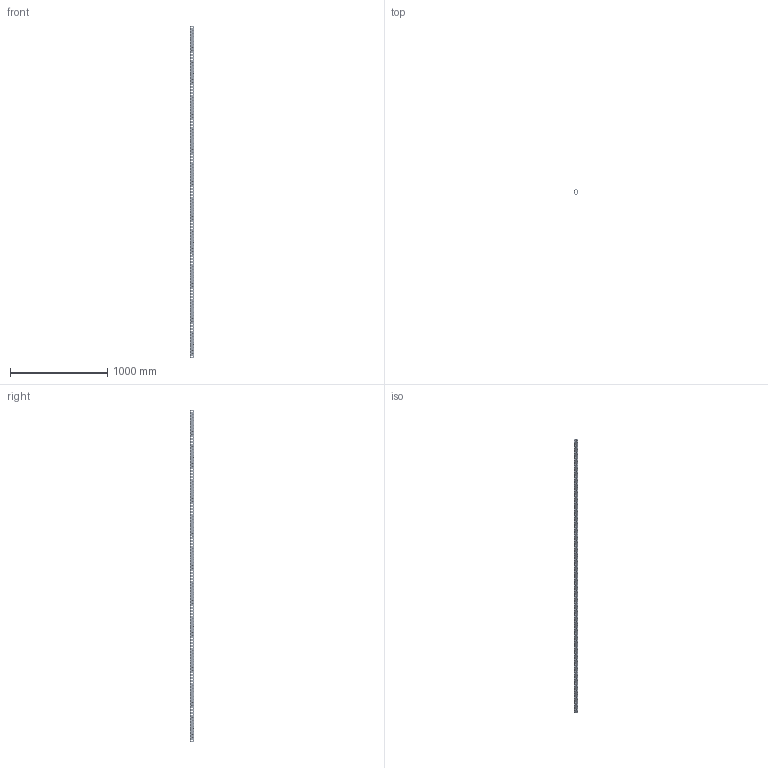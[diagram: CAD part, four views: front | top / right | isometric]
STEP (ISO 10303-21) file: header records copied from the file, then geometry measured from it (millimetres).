
FILE_DESCRIPTION(('CATIA V5 STEP Exchange'),'2;1');
FILE_NAME('U:\Room\唐宝山\EGT002\46-01-010343-01-EGT002-3418.stp','2021-08-24T09:36:42+00:00',('none'),('none'),'CATIA Version 5 Release 21 GA (IN-10)','CATIA V5 STEP AP203','none');
FILE_SCHEMA(('CONFIG_CONTROL_DESIGN'));
Products named in the file (1): 46-01-010343-01-EGT002-3418
Bounding box: 50 x 50 x 3418 mm (x, y, z)
Volume: 2435489.2 mm3; surface area: 1172901 mm2
Topology: 1 solids, 1 shells, 4644 faces, 12786 edges, 7916 vertices
Faces by surface type: cone 2736, cylinder 1882, plane 26
Entity records: 188590 total; most frequent: CARTESIAN_POINT 75907, ORIENTED_EDGE 25572, DIRECTION 18223, EDGE_CURVE 12786, AXIS2_PLACEMENT_3D 8662, VERTEX_POINT 7916, EDGE_LOOP 6242, VECTOR 4918
